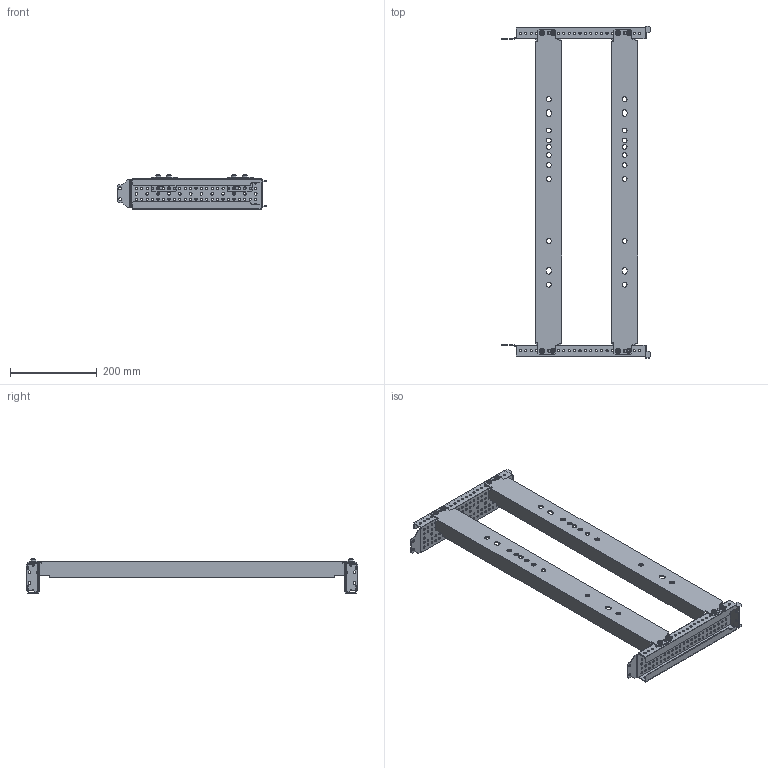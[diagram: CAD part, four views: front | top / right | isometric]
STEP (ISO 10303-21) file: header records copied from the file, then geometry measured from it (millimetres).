
FILE_DESCRIPTION (( 'STEP AP214' ), '1' );
FILE_NAME ('FO-00-ABD-060-080 Êîìïëåêò óñòàíîâî÷íûé ARMAT ACB òèïîðàçìåð AIIBIID 3II4P 600õ800.STEP', '2025-07-15T11:26:28', ( '' ), ( '' ), 'SwSTEP 2.0', 'SolidWorks 2023', '' );
FILE_SCHEMA (( 'AUTOMOTIVE_DESIGN' ));
Length unit declared in the file: millimetre
Products named in the file (4): Screw_DIN_7500_M6x10_Torx_T30; Траверса поперечная для CW6-16_20_25 в шкаф 800мм; FO-00-ABD-060-080 Комплект установочный ARMAT ACB типоразмер AIIBIID 3II4P 600х800; Траверса возд. выключателя по глубине
Assembly tree (20 placements, depth 2):
  FO-00-ABD-060-080 Комплект установочный ARMAT ACB типоразмер AIIBIID 3II4P 600х800
    Траверса поперечная для CW6-16_20_25 в шкаф 800мм  x2
    Траверса возд. выключателя по глубине  x2
    Screw_DIN_7500_M6x10_Torx_T30  x16
Bounding box: 344.49 x 766 x 79 mm (x, y, z)
Volume: 725328.8 mm3; surface area: 574580 mm2
Topology: 20 solids, 20 shells, 1508 faces, 4180 edges, 2744 vertices
Faces by surface type: cylinder 1012, plane 366, cone 64, torus 64, bspline 2
Entity records: 19236 total; most frequent: DIRECTION 3452, CARTESIAN_POINT 3250, ORIENTED_EDGE 3158, EDGE_CURVE 1579, AXIS2_PLACEMENT_3D 1317, VERTEX_POINT 1050, EDGE_LOOP 889, VECTOR 818
